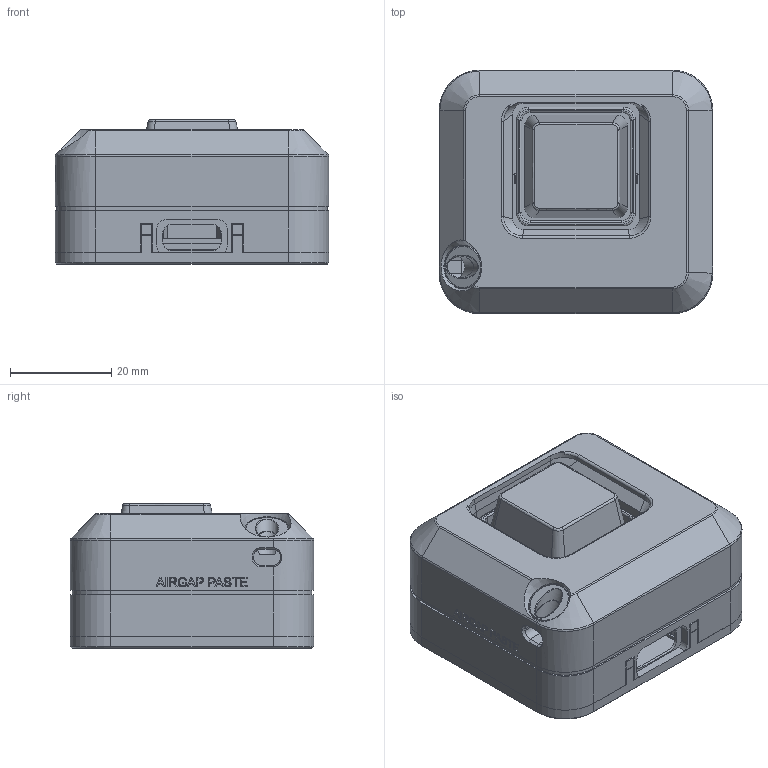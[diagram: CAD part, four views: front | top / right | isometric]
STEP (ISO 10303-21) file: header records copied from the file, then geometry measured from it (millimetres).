
FILE_DESCRIPTION(('Open CASCADE Model'),'2;1');
FILE_NAME('Open CASCADE Shape Model','2026-10-06T21:52:03',('Author'),( 'Open CASCADE'),'Open CASCADE STEP processor 7.9','Open CASCADE 7.9' ,'Unknown');
FILE_SCHEMA(('AUTOMOTIVE_DESIGN { 1 0 10303 214 1 1 1 1 }'));
Length unit declared in the file: millimetre
Products named in the file (10): AirGap_Paste_Pocket_Recess; 01_shell; 02_base; 03_keycap; 04_halo; 09_eye_bushing; 05_mx_plate; 07_xiao_wedge; 06_lightguide_left; 06_lightguide_right
Assembly tree (9 placements, depth 2):
  AirGap_Paste_Pocket_Recess
    01_shell
    02_base
    03_keycap
    04_halo
    09_eye_bushing
    05_mx_plate
    07_xiao_wedge
    06_lightguide_left
    06_lightguide_right
Bounding box: 54 x 48 x 28.6 mm (x, y, z)
Volume: 25348.9 mm3; surface area: 28256.2 mm2
Topology: 9 solids, 9 shells, 844 faces, 2235 edges, 1447 vertices
Faces by surface type: plane 500, cylinder 105, bspline 103, extrusion 100, cone 19, torus 17
Full cylindrical faces by diameter (mm): 3.4 x6, 4.4 x2, 5.3 x1, 8.4 x1, 8.7 x1
Entity records: 58215 total; most frequent: CARTESIAN_POINT 16852, DIRECTION 6273, ORIENTED_EDGE 4470, PCURVE 4470, DEFINITIONAL_REPRESENTATION 4470, VECTOR 4292, LINE 4192, EDGE_CURVE 2235
